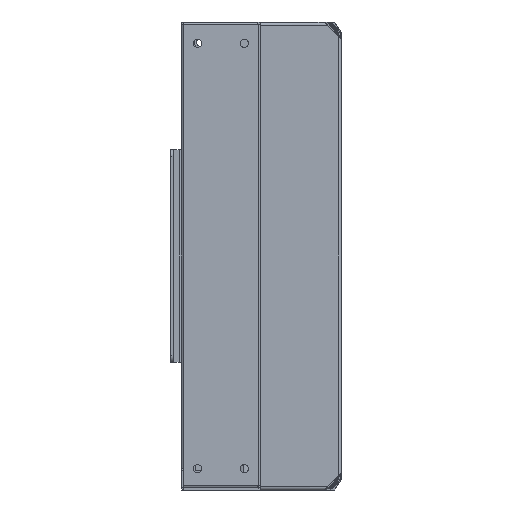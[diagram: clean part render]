
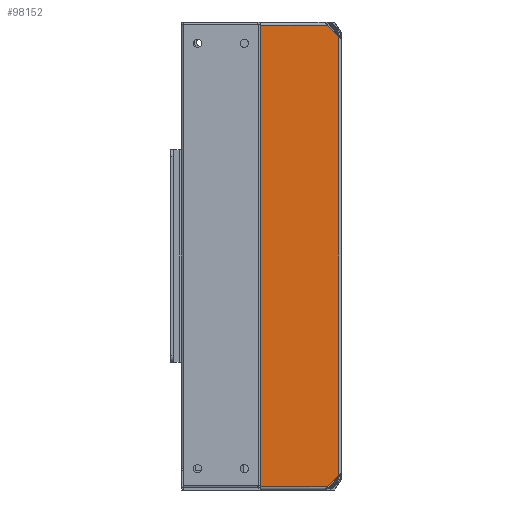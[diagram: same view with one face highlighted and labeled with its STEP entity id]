
A CAD part, left-side view. The second image highlights one B-rep face of the part: STEP entity #98152.
In plain terms, the highlighted planar face has unit normal (-1, 0, 0).
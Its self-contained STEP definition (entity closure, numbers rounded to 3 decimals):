
#7503=DIRECTION('',(0.,0.,-1.));
#7504=VECTOR('',#7503,217.);
#7505=CARTESIAN_POINT('',(-113.,38.,108.5));
#7506=LINE('',#7505,#7504);
#18779=CARTESIAN_POINT('',(-113.,6.5,108.5));
#18784=DIRECTION('',(0.,1.,0.));
#18785=VECTOR('',#18784,31.5);
#18786=CARTESIAN_POINT('',(-113.,6.5,108.5));
#18787=LINE('',#18786,#18785);
#18810=CARTESIAN_POINT('',(-113.,1.,-103.));
#18815=DIRECTION('',(0.,0.,1.));
#18816=VECTOR('',#18815,206.);
#18817=CARTESIAN_POINT('',(-113.,1.,-103.));
#18818=LINE('',#18817,#18816);
#18822=CARTESIAN_POINT('',(-113.,1.,103.));
#26681=DIRECTION('',(0.,-1.,0.));
#26682=VECTOR('',#26681,31.5);
#26683=CARTESIAN_POINT('',(-113.,38.,-108.5));
#26684=LINE('',#26683,#26682);
#26688=CARTESIAN_POINT('',(-113.,6.5,-108.5));
#26705=DIRECTION('',(0.,0.707,-0.707));
#26706=VECTOR('',#26705,7.778);
#26707=CARTESIAN_POINT('',(-113.,1.,-103.));
#26708=LINE('',#26707,#26706);
#26712=DIRECTION('',(0.,-0.707,-0.707));
#26713=VECTOR('',#26712,7.778);
#26714=CARTESIAN_POINT('',(-113.,6.5,108.5));
#26715=LINE('',#26714,#26713);
#72001=CARTESIAN_POINT('',(-113.,38.,108.5));
#72002=VERTEX_POINT('',#72001);
#72003=CARTESIAN_POINT('',(-113.,38.,-108.5));
#72004=VERTEX_POINT('',#72003);
#73749=VERTEX_POINT('',#18779);
#73750=VERTEX_POINT('',#18822);
#73756=VERTEX_POINT('',#18810);
#73763=VERTEX_POINT('',#26688);
#98139=CARTESIAN_POINT('',(-113.,0.,-110.));
#98140=DIRECTION('',(-1.,0.,0.));
#98141=DIRECTION('',(0.,0.,1.));
#98142=AXIS2_PLACEMENT_3D('',#98139,#98140,#98141);
#98143=PLANE('',#98142);
#98144=ORIENTED_EDGE('',*,*,#93425,.T.);
#98145=ORIENTED_EDGE('',*,*,#98132,.F.);
#98146=ORIENTED_EDGE('',*,*,#83515,.F.);
#98147=ORIENTED_EDGE('',*,*,#93370,.F.);
#98148=ORIENTED_EDGE('',*,*,#93384,.T.);
#98149=ORIENTED_EDGE('',*,*,#93404,.F.);
#98150=EDGE_LOOP('',(#98144,#98145,#98146,#98147,#98148,#98149));
#98151=FACE_OUTER_BOUND('',#98150,.F.);
#83515=EDGE_CURVE('',#72002,#72004,#7506,.T.);
#93370=EDGE_CURVE('',#73749,#72002,#18787,.T.);
#93384=EDGE_CURVE('',#73749,#73750,#26715,.T.);
#93404=EDGE_CURVE('',#73756,#73750,#18818,.T.);
#93425=EDGE_CURVE('',#73756,#73763,#26708,.T.);
#98132=EDGE_CURVE('',#72004,#73763,#26684,.T.);
#98152=ADVANCED_FACE('',(#98151),#98143,.T.);
